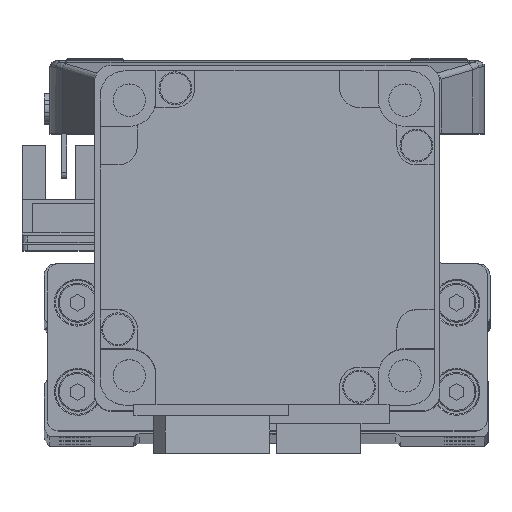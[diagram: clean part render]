
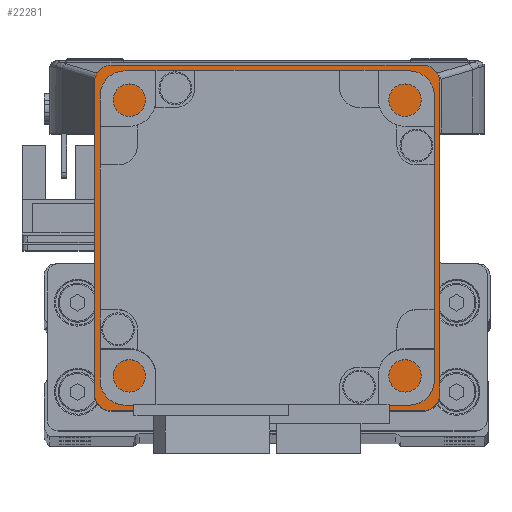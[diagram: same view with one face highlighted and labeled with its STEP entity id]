
A CAD part, top view. The second image highlights one B-rep face of the part: STEP entity #22281.
In plain terms, the highlighted planar face has unit normal (0, 0, 1).
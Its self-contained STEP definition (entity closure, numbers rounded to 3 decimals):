
#200 = ORIENTED_EDGE ( 'NONE', *, *, #5643, .T. ) ;
#204 = ORIENTED_EDGE ( 'NONE', *, *, #5640, .T. ) ;
#206 = ORIENTED_EDGE ( 'NONE', *, *, #5685, .T. ) ;
#221 = ORIENTED_EDGE ( 'NONE', *, *, #5699, .T. ) ;
#223 = ORIENTED_EDGE ( 'NONE', *, *, #5673, .T. ) ;
#224 = ORIENTED_EDGE ( 'NONE', *, *, #5649, .T. ) ;
#230 = ORIENTED_EDGE ( 'NONE', *, *, #6802, .F. ) ;
#237 = ORIENTED_EDGE ( 'NONE', *, *, #5671, .F. ) ;
#241 = ORIENTED_EDGE ( 'NONE', *, *, #5652, .T. ) ;
#254 = ORIENTED_EDGE ( 'NONE', *, *, #5654, .T. ) ;
#3124 = FACE_BOUND ( 'NONE', #44068, .T. ) ;
#3146 = FACE_OUTER_BOUND ( 'NONE', #44039, .T. ) ;
#4080 = CARTESIAN_POINT ( 'NONE',  ( 0., 0., 79. ) ) ;
#4082 = DIRECTION ( 'NONE',  ( 0., 0., 1. ) ) ;
#4095 = PLANE ( 'NONE',  #40647 ) ;
#4099 = DIRECTION ( 'NONE',  ( 1., 0., 0. ) ) ;
#5346 = CARTESIAN_POINT ( 'NONE',  ( 30.995, 63.495, 79. ) ) ;
#5366 = CARTESIAN_POINT ( 'NONE',  ( -27.995, 4.505, 79. ) ) ;
#5370 = CARTESIAN_POINT ( 'NONE',  ( 30.995, 7.505, 79. ) ) ;
#5376 = CARTESIAN_POINT ( 'NONE',  ( 27.995, 4.505, 79. ) ) ;
#5406 = CARTESIAN_POINT ( 'NONE',  ( -30.995, 7.505, 79. ) ) ;
#5415 = CARTESIAN_POINT ( 'NONE',  ( -30.995, 63.495, 79. ) ) ;
#5423 = CARTESIAN_POINT ( 'NONE',  ( 27.995, 66.495, 79. ) ) ;
#5424 = CARTESIAN_POINT ( 'NONE',  ( -27.995, 66.495, 79. ) ) ;
#5640 = EDGE_CURVE ( 'NONE', #44571, #44528, #46939, .T. ) ;
#5643 = EDGE_CURVE ( 'NONE', #44528, #44531, #46969, .T. ) ;
#5649 = EDGE_CURVE ( 'NONE', #44494, #44499, #46960, .T. ) ;
#5652 = EDGE_CURVE ( 'NONE', #44473, #44533, #46958, .T. ) ;
#5654 = EDGE_CURVE ( 'NONE', #44451, #44473, #46974, .T. ) ;
#5671 = EDGE_CURVE ( 'NONE', #33651, #33579, #47036, .T. ) ;
#5673 = EDGE_CURVE ( 'NONE', #44499, #44451, #46983, .T. ) ;
#5685 = EDGE_CURVE ( 'NONE', #44531, #44494, #46991, .T. ) ;
#5699 = EDGE_CURVE ( 'NONE', #44533, #44571, #47092, .T. ) ;
#6802 = EDGE_CURVE ( 'NONE', #33579, #33651, #16626, .T. ) ;
#12938 = CARTESIAN_POINT ( 'NONE',  ( -25., 35.5, 79. ) ) ;
#15775 = DIRECTION ( 'NONE',  ( 0., 0., 1. ) ) ;
#15778 = CARTESIAN_POINT ( 'NONE',  ( 0., 35.5, 79. ) ) ;
#15796 = DIRECTION ( 'NONE',  ( 1., 0., 0. ) ) ;
#16626 = CIRCLE ( 'NONE', #40195, 25. ) ;
#20863 = CARTESIAN_POINT ( 'NONE',  ( 25., 35.5, 79. ) ) ;
#22281 = ADVANCED_FACE ( 'NONE', ( #3124, #3146 ), #4095, .T. ) ;
#33579 = VERTEX_POINT ( 'NONE', #12938 ) ;
#33651 = VERTEX_POINT ( 'NONE', #20863 ) ;
#38762 = CARTESIAN_POINT ( 'NONE',  ( -30.995, 4.505, 79. ) ) ;
#38764 = DIRECTION ( 'NONE',  ( 1., 0., 0. ) ) ;
#38765 = CARTESIAN_POINT ( 'NONE',  ( -27.995, 63.495, 79. ) ) ;
#38780 = DIRECTION ( 'NONE',  ( 1., 0., 0. ) ) ;
#38787 = DIRECTION ( 'NONE',  ( 0., -1., 0. ) ) ;
#38789 = DIRECTION ( 'NONE',  ( 0., 0., 1. ) ) ;
#38798 = CARTESIAN_POINT ( 'NONE',  ( 30.995, 4.505, 79. ) ) ;
#38806 = DIRECTION ( 'NONE',  ( 1., 0., 0. ) ) ;
#38816 = DIRECTION ( 'NONE',  ( 0., 1., 0. ) ) ;
#38820 = CARTESIAN_POINT ( 'NONE',  ( 27.995, 63.495, 79. ) ) ;
#38830 = DIRECTION ( 'NONE',  ( 0., 0., 1. ) ) ;
#38836 = CARTESIAN_POINT ( 'NONE',  ( 30.995, 4.505, 79. ) ) ;
#38839 = DIRECTION ( 'NONE',  ( 0., 0., 1. ) ) ;
#38848 = DIRECTION ( 'NONE',  ( 0., 0., 1. ) ) ;
#38849 = CARTESIAN_POINT ( 'NONE',  ( 0., 35.5, 79. ) ) ;
#38850 = CARTESIAN_POINT ( 'NONE',  ( 27.995, 7.505, 79. ) ) ;
#38851 = DIRECTION ( 'NONE',  ( 1., 0., 0. ) ) ;
#38852 = DIRECTION ( 'NONE',  ( 0., 0., 1. ) ) ;
#38862 = DIRECTION ( 'NONE',  ( 1., 0., 0. ) ) ;
#38867 = CARTESIAN_POINT ( 'NONE',  ( -27.995, 7.505, 79. ) ) ;
#38881 = DIRECTION ( 'NONE',  ( 1., 0., 0. ) ) ;
#38892 = CARTESIAN_POINT ( 'NONE',  ( 30.995, 66.495, 79. ) ) ;
#38906 = DIRECTION ( 'NONE',  ( -1., 0., 0. ) ) ;
#39842 = AXIS2_PLACEMENT_3D ( 'NONE', #38850, #38852, #38862 ) ;
#39847 = AXIS2_PLACEMENT_3D ( 'NONE', #38820, #38830, #38806 ) ;
#39857 = AXIS2_PLACEMENT_3D ( 'NONE', #38765, #38789, #38780 ) ;
#39870 = AXIS2_PLACEMENT_3D ( 'NONE', #38849, #38848, #38851 ) ;
#39885 = AXIS2_PLACEMENT_3D ( 'NONE', #38867, #38839, #38881 ) ;
#40195 = AXIS2_PLACEMENT_3D ( 'NONE', #15778, #15775, #15796 ) ;
#40647 = AXIS2_PLACEMENT_3D ( 'NONE', #4080, #4082, #4099 ) ;
#44039 = EDGE_LOOP ( 'NONE', ( #200, #206, #224, #223, #254, #241, #221, #204 ) ) ;
#44068 = EDGE_LOOP ( 'NONE', ( #237, #230 ) ) ;
#44451 = VERTEX_POINT ( 'NONE', #5370 ) ;
#44473 = VERTEX_POINT ( 'NONE', #5346 ) ;
#44494 = VERTEX_POINT ( 'NONE', #5366 ) ;
#44499 = VERTEX_POINT ( 'NONE', #5376 ) ;
#44528 = VERTEX_POINT ( 'NONE', #5415 ) ;
#44531 = VERTEX_POINT ( 'NONE', #5406 ) ;
#44533 = VERTEX_POINT ( 'NONE', #5423 ) ;
#44571 = VERTEX_POINT ( 'NONE', #5424 ) ;
#46926 = VECTOR ( 'NONE', #38816, 1000. ) ;
#46927 = VECTOR ( 'NONE', #38764, 1000. ) ;
#46939 = CIRCLE ( 'NONE', #39857, 3. ) ;
#46952 = VECTOR ( 'NONE', #38787, 1000. ) ;
#46958 = CIRCLE ( 'NONE', #39847, 3. ) ;
#46960 = LINE ( 'NONE', #38798, #46927 ) ;
#46969 = LINE ( 'NONE', #38762, #46952 ) ;
#46974 = LINE ( 'NONE', #38836, #46926 ) ;
#46983 = CIRCLE ( 'NONE', #39842, 3. ) ;
#46991 = CIRCLE ( 'NONE', #39885, 3. ) ;
#47036 = CIRCLE ( 'NONE', #39870, 25. ) ;
#47074 = VECTOR ( 'NONE', #38906, 1000. ) ;
#47092 = LINE ( 'NONE', #38892, #47074 ) ;
